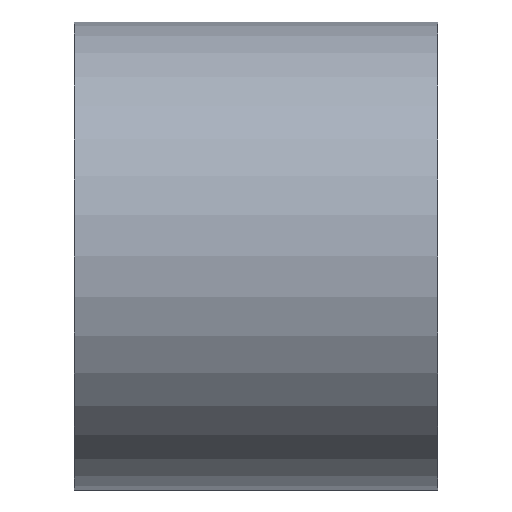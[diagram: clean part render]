
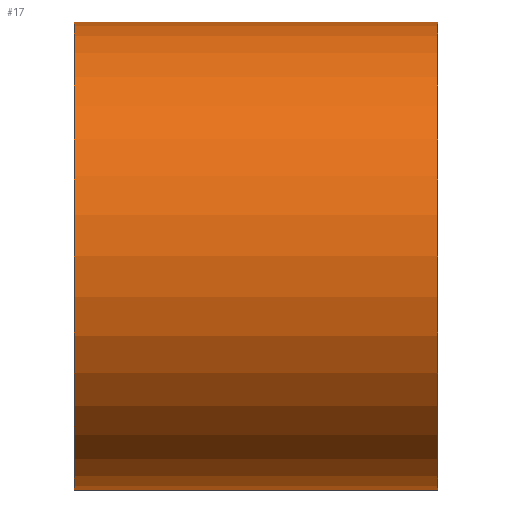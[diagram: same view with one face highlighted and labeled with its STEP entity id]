
A CAD part, front view. The second image highlights one B-rep face of the part: STEP entity #17.
In plain terms, the highlighted cylindrical face has radius 125 mm (diameter 250 mm), a full revolution.
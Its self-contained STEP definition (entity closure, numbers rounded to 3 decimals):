
#17 = ADVANCED_FACE('',(#18),#32,.T.);
#18 = FACE_BOUND('',#19,.F.);
#19 = EDGE_LOOP('',(#20,#50,#77,#78));
#20 = ORIENTED_EDGE('',*,*,#21,.T.);
#21 = EDGE_CURVE('',#22,#24,#26,.T.);
#22 = VERTEX_POINT('',#23);
#23 = CARTESIAN_POINT('',(1416.,125.,0.));
#24 = VERTEX_POINT('',#25);
#25 = CARTESIAN_POINT('',(1610.,125.,0.));
#26 = SEAM_CURVE('',#27,(#31,#43),.PCURVE_S1.);
#27 = LINE('',#28,#29);
#28 = CARTESIAN_POINT('',(1416.,125.,0.));
#29 = VECTOR('',#30,1.);
#30 = DIRECTION('',(1.,0.,0.));
#31 = PCURVE('',#32,#37);
#32 = CYLINDRICAL_SURFACE('',#33,125.);
#33 = AXIS2_PLACEMENT_3D('',#34,#35,#36);
#34 = CARTESIAN_POINT('',(1416.,0.,0.));
#35 = DIRECTION('',(-1.,-0.,-0.));
#36 = DIRECTION('',(0.,1.,0.));
#37 = DEFINITIONAL_REPRESENTATION('',(#38),#42);
#38 = LINE('',#39,#40);
#39 = CARTESIAN_POINT('',(-0.,0.));
#40 = VECTOR('',#41,1.);
#41 = DIRECTION('',(-0.,-1.));
#42 = ( GEOMETRIC_REPRESENTATION_CONTEXT(2) 
PARAMETRIC_REPRESENTATION_CONTEXT() REPRESENTATION_CONTEXT('2D SPACE',''
  ) );
#43 = PCURVE('',#32,#44);
#44 = DEFINITIONAL_REPRESENTATION('',(#45),#49);
#45 = LINE('',#46,#47);
#46 = CARTESIAN_POINT('',(-6.283,0.));
#47 = VECTOR('',#48,1.);
#48 = DIRECTION('',(-0.,-1.));
#49 = ( GEOMETRIC_REPRESENTATION_CONTEXT(2) 
PARAMETRIC_REPRESENTATION_CONTEXT() REPRESENTATION_CONTEXT('2D SPACE',''
  ) );
#50 = ORIENTED_EDGE('',*,*,#51,.T.);
#51 = EDGE_CURVE('',#24,#24,#52,.T.);
#52 = SURFACE_CURVE('',#53,(#58,#65),.PCURVE_S1.);
#53 = CIRCLE('',#54,125.);
#54 = AXIS2_PLACEMENT_3D('',#55,#56,#57);
#55 = CARTESIAN_POINT('',(1610.,0.,0.));
#56 = DIRECTION('',(1.,0.,0.));
#57 = DIRECTION('',(0.,1.,0.));
#58 = PCURVE('',#32,#59);
#59 = DEFINITIONAL_REPRESENTATION('',(#60),#64);
#60 = LINE('',#61,#62);
#61 = CARTESIAN_POINT('',(-0.,-194.));
#62 = VECTOR('',#63,1.);
#63 = DIRECTION('',(-1.,0.));
#64 = ( GEOMETRIC_REPRESENTATION_CONTEXT(2) 
PARAMETRIC_REPRESENTATION_CONTEXT() REPRESENTATION_CONTEXT('2D SPACE',''
  ) );
#65 = PCURVE('',#66,#71);
#66 = PLANE('',#67);
#67 = AXIS2_PLACEMENT_3D('',#68,#69,#70);
#68 = CARTESIAN_POINT('',(1610.,0.,
    0.));
#69 = DIRECTION('',(1.,0.,0.));
#70 = DIRECTION('',(-0.,0.,1.));
#71 = DEFINITIONAL_REPRESENTATION('',(#72),#76);
#72 = CIRCLE('',#73,125.);
#73 = AXIS2_PLACEMENT_2D('',#74,#75);
#74 = CARTESIAN_POINT('',(0.,0.));
#75 = DIRECTION('',(0.,-1.));
#76 = ( GEOMETRIC_REPRESENTATION_CONTEXT(2) 
PARAMETRIC_REPRESENTATION_CONTEXT() REPRESENTATION_CONTEXT('2D SPACE',''
  ) );
#77 = ORIENTED_EDGE('',*,*,#21,.F.);
#78 = ORIENTED_EDGE('',*,*,#79,.F.);
#79 = EDGE_CURVE('',#22,#22,#80,.T.);
#80 = SURFACE_CURVE('',#81,(#86,#93),.PCURVE_S1.);
#81 = CIRCLE('',#82,125.);
#82 = AXIS2_PLACEMENT_3D('',#83,#84,#85);
#83 = CARTESIAN_POINT('',(1416.,0.,0.));
#84 = DIRECTION('',(1.,0.,0.));
#85 = DIRECTION('',(0.,1.,0.));
#86 = PCURVE('',#32,#87);
#87 = DEFINITIONAL_REPRESENTATION('',(#88),#92);
#88 = LINE('',#89,#90);
#89 = CARTESIAN_POINT('',(-0.,0.));
#90 = VECTOR('',#91,1.);
#91 = DIRECTION('',(-1.,0.));
#92 = ( GEOMETRIC_REPRESENTATION_CONTEXT(2) 
PARAMETRIC_REPRESENTATION_CONTEXT() REPRESENTATION_CONTEXT('2D SPACE',''
  ) );
#93 = PCURVE('',#94,#99);
#94 = PLANE('',#95);
#95 = AXIS2_PLACEMENT_3D('',#96,#97,#98);
#96 = CARTESIAN_POINT('',(1416.,0.,
    0.));
#97 = DIRECTION('',(1.,0.,0.));
#98 = DIRECTION('',(-0.,0.,1.));
#99 = DEFINITIONAL_REPRESENTATION('',(#100),#104);
#100 = CIRCLE('',#101,125.);
#101 = AXIS2_PLACEMENT_2D('',#102,#103);
#102 = CARTESIAN_POINT('',(0.,0.));
#103 = DIRECTION('',(0.,-1.));
#104 = ( GEOMETRIC_REPRESENTATION_CONTEXT(2) 
PARAMETRIC_REPRESENTATION_CONTEXT() REPRESENTATION_CONTEXT('2D SPACE',''
  ) );
